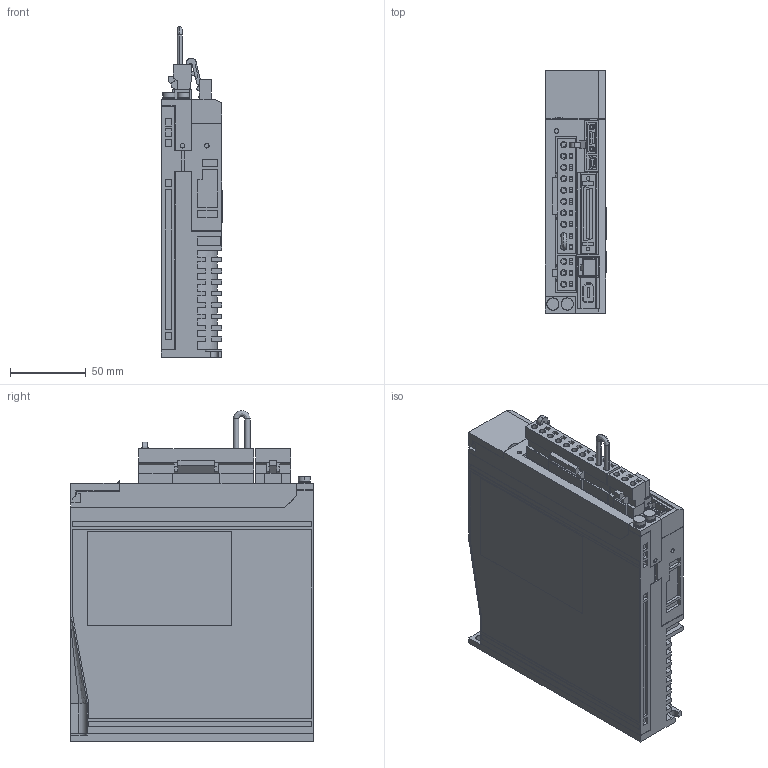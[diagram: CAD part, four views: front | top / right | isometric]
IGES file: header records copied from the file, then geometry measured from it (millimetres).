
Start section: SolidWorks IGES file using analytic representation for surfaces
Global section: file name: C:\YASKAWA\sgdv_2r8a0_a.IGS; native system: SolidWorks 2006 by SolidWorks Corporation; preprocessor: SolidWorks 2006 by SolidWorks Corporation; author: yamanouchi; date: 080617.172354; units: millimetre
Bounding box: 40.5 x 160 x 218 mm (x, y, z)
Surface area: 157927.4 mm2 (no closed solid volume)
Topology: 0 solids, 0 shells, 1882 faces, 14963 edges, 14963 vertices
Faces by surface type: bspline 1632, revolution 250
